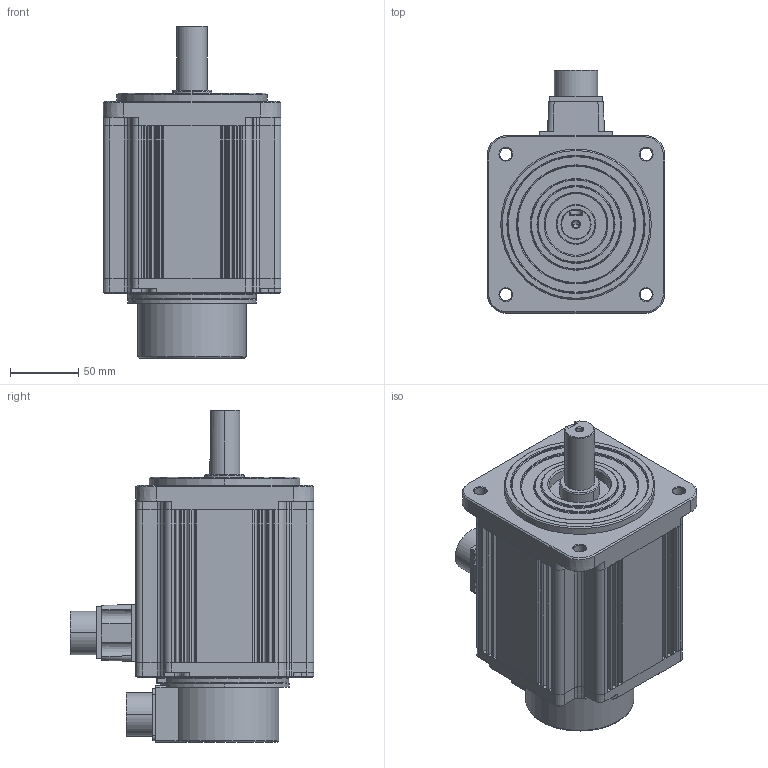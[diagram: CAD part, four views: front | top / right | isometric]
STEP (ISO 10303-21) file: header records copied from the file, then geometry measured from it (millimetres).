
FILE_DESCRIPTION((''),'2;1');
FILE_NAME('ECMA-EX1320ES','2015-04-01T',('MIO.CHEN'),(''),'PRO/ENGINEER BY PARAMETRIC TECHNOLOGY CORPORATION, 2010180','PRO/ENGINEER BY PARAMETRIC TECHNOLOGY CORPORATION, 2010180','');
FILE_SCHEMA(('AUTOMOTIVE_DESIGN_CC2 { 1 2 10303 214 -1 1 5 2 }'));
Length unit declared in the file: millimetre
Products named in the file (1): ECMA-EX1320ES
Bounding box: 130 x 177.75 x 242.5 mm (x, y, z)
Volume: 2485046.1 mm3; surface area: 154369.2 mm2
Topology: 1 solids, 1 shells, 542 faces, 1312 edges, 781 vertices
Faces by surface type: plane 270, cylinder 142, cone 102, torus 21, sphere 4, bspline 3
Entity records: 15867 total; most frequent: CARTESIAN_POINT 3001, DIRECTION 2789, ORIENTED_EDGE 2612, EDGE_CURVE 1306, AXIS2_PLACEMENT_3D 997, VECTOR 795, LINE 795, VERTEX_POINT 781
